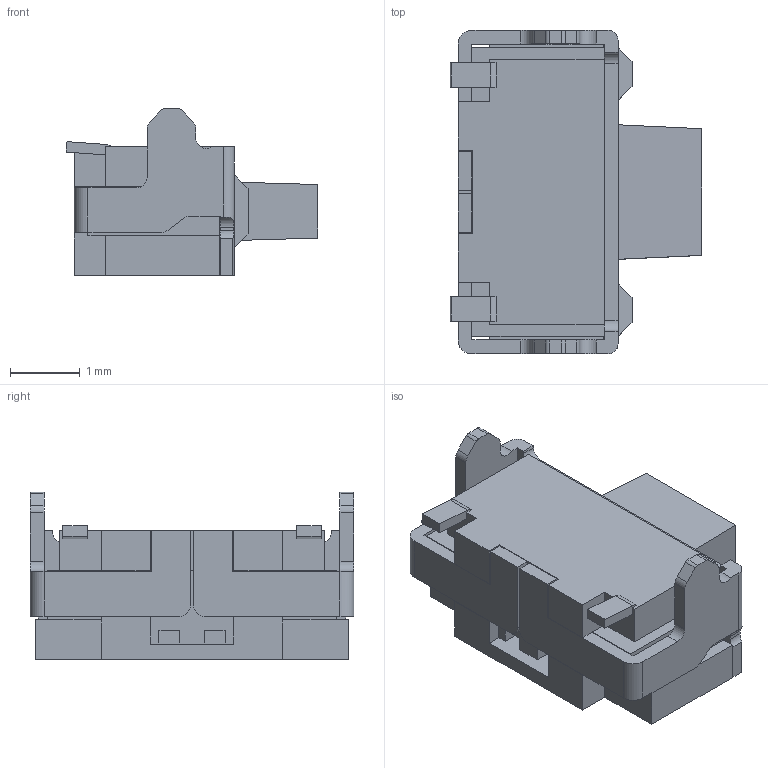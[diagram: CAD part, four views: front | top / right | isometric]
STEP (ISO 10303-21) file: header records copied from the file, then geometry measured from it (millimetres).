
FILE_DESCRIPTION((''),'2;1');
FILE_NAME('JQD1846-B0351-01AG-1-105_ASM','2026-05-20T16:16:50',('Admin'),(''),'CREO PARAMETRIC BY PTC INC, 2019224','CREO PARAMETRIC BY PTC INC, 2019224','');
FILE_SCHEMA(('AUTOMOTIVE_DESIGN { 1 0 10303 214 1 1 1 1 }'));
Length unit declared in the file: millimetre
Products named in the file (2): JQD1846-B0351-01AG-1-105_01; JQD1846-B0351-01AG-1-105_ASM
Assembly tree (1 placements, depth 2):
  JQD1846-B0351-01AG-1-105_ASM
    JQD1846-B0351-01AG-1-105_01
Bounding box: 3.61 x 4.65 x 2.4 mm (x, y, z)
Volume: 15.7 mm3; surface area: 102.2 mm2
Topology: 1 solids, 3 shells, 230 faces, 652 edges, 428 vertices
Faces by surface type: plane 198, cylinder 32
Entity records: 10331 total; most frequent: CARTESIAN_POINT 1344, ORIENTED_EDGE 1304, DIRECTION 1178, PRESENTATION_STYLE_ASSIGNMENT 728, STYLED_ITEM 655, CURVE_STYLE 654, EDGE_CURVE 652, VECTOR 586
